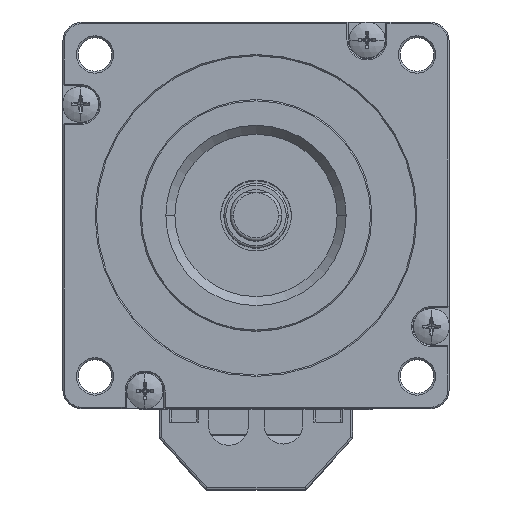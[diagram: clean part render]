
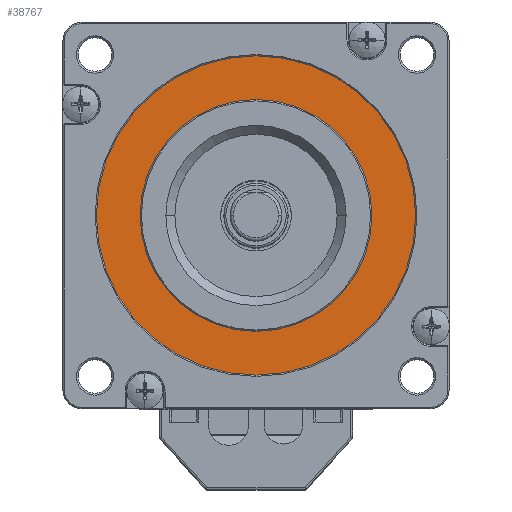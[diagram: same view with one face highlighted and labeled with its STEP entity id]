
A CAD part, top view. The second image highlights one B-rep face of the part: STEP entity #38767.
In plain terms, the highlighted planar face has unit normal (0, 0, 1).
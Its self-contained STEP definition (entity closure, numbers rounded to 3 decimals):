
#2362 = CARTESIAN_POINT ( 'NONE',  ( 0., 0., 10.8 ) ) ;
#3083 = ORIENTED_EDGE ( 'NONE', *, *, #18249, .F. ) ;
#3188 = EDGE_CURVE ( 'NONE', #41039, #41013, #28810, .T. ) ;
#3627 = AXIS2_PLACEMENT_3D ( 'NONE', #40729, #21336, #21077 ) ;
#4273 = AXIS2_PLACEMENT_3D ( 'NONE', #5535, #19234, #5962 ) ;
#5415 = DIRECTION ( 'NONE',  ( 1., 0., 0. ) ) ;
#5535 = CARTESIAN_POINT ( 'NONE',  ( 0., 0., 10.8 ) ) ;
#5962 = DIRECTION ( 'NONE',  ( 1., 0., 0. ) ) ;
#6276 = CARTESIAN_POINT ( 'NONE',  ( 0., 0., 10.8 ) ) ;
#7426 = VERTEX_POINT ( 'NONE', #34087 ) ;
#10167 = CARTESIAN_POINT ( 'NONE',  ( -24.8, 0., 10.8 ) ) ;
#12299 = PLANE ( 'NONE',  #4273 ) ;
#12522 = ORIENTED_EDGE ( 'NONE', *, *, #17008, .F. ) ;
#12768 = DIRECTION ( 'NONE',  ( 0., 0., 1. ) ) ;
#12813 = EDGE_LOOP ( 'NONE', ( #3083, #12522 ) ) ;
#13482 = CIRCLE ( 'NONE', #34660, 18. ) ;
#14187 = ORIENTED_EDGE ( 'NONE', *, *, #15968, .T. ) ;
#15630 = CIRCLE ( 'NONE', #3627, 18. ) ;
#15968 = EDGE_CURVE ( 'NONE', #41013, #41039, #28039, .T. ) ;
#17008 = EDGE_CURVE ( 'NONE', #7426, #26686, #15630, .T. ) ;
#17551 = EDGE_LOOP ( 'NONE', ( #39056, #14187 ) ) ;
#18249 = EDGE_CURVE ( 'NONE', #26686, #7426, #13482, .T. ) ;
#19234 = DIRECTION ( 'NONE',  ( 0., 0., 1. ) ) ;
#19582 = FACE_OUTER_BOUND ( 'NONE', #17551, .T. ) ;
#20202 = AXIS2_PLACEMENT_3D ( 'NONE', #2362, #41389, #5415 ) ;
#21077 = DIRECTION ( 'NONE',  ( 1., 0., 0. ) ) ;
#21336 = DIRECTION ( 'NONE',  ( 0., 0., 1. ) ) ;
#22325 = DIRECTION ( 'NONE',  ( 1., 0., 0. ) ) ;
#24712 = FACE_BOUND ( 'NONE', #12813, .T. ) ;
#26050 = DIRECTION ( 'NONE',  ( 1., 0., 0. ) ) ;
#26686 = VERTEX_POINT ( 'NONE', #40118 ) ;
#28039 = CIRCLE ( 'NONE', #20202, 24.8 ) ;
#28810 = CIRCLE ( 'NONE', #40219, 24.8 ) ;
#29796 = CARTESIAN_POINT ( 'NONE',  ( 24.8, 0., 10.8 ) ) ;
#32240 = DIRECTION ( 'NONE',  ( 0., 0., 1. ) ) ;
#34087 = CARTESIAN_POINT ( 'NONE',  ( 18., 0., 10.8 ) ) ;
#34660 = AXIS2_PLACEMENT_3D ( 'NONE', #35987, #12768, #26050 ) ;
#35987 = CARTESIAN_POINT ( 'NONE',  ( 0., 0., 10.8 ) ) ;
#38767 = ADVANCED_FACE ( 'NONE', ( #24712, #19582 ), #12299, .T. ) ;
#39056 = ORIENTED_EDGE ( 'NONE', *, *, #3188, .T. ) ;
#40118 = CARTESIAN_POINT ( 'NONE',  ( -18., 0., 10.8 ) ) ;
#40219 = AXIS2_PLACEMENT_3D ( 'NONE', #6276, #32240, #22325 ) ;
#40729 = CARTESIAN_POINT ( 'NONE',  ( 0., 0., 10.8 ) ) ;
#41013 = VERTEX_POINT ( 'NONE', #10167 ) ;
#41039 = VERTEX_POINT ( 'NONE', #29796 ) ;
#41389 = DIRECTION ( 'NONE',  ( 0., 0., 1. ) ) ;
